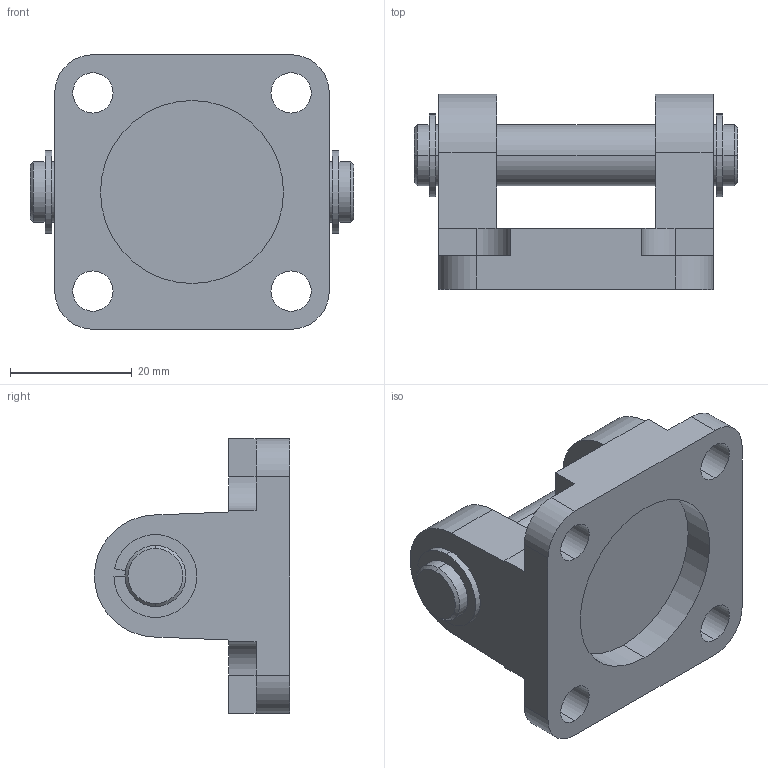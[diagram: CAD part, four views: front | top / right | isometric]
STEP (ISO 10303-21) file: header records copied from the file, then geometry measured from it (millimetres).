
FILE_DESCRIPTION (( 'STEP AP214' ), '1' );
FILE_NAME ('SFSICR-032.STEP', '2013-09-11T11:29:59', ( '' ), ( '' ), 'SwSTEP 2.0', 'SolidWorks 2009', '' );
FILE_SCHEMA (( 'AUTOMOTIVE_DESIGN' ));
Length unit declared in the file: millimetre
Products named in the file (3): SFSICR-032; SFSI-Gestell_SFSICR-032; Bolzen_Bolzen-032
Assembly tree (2 placements, depth 2):
  SFSICR-032
    SFSI-Gestell_SFSICR-032
    Bolzen_Bolzen-032
Bounding box: 53 x 32 x 45 mm (x, y, z)
Volume: 23875.9 mm3; surface area: 10981.1 mm2
Topology: 2 solids, 2 shells, 81 faces, 216 edges, 140 vertices
Faces by surface type: plane 39, cylinder 38, cone 4
Entity records: 2830 total; most frequent: DIRECTION 476, CARTESIAN_POINT 442, ORIENTED_EDGE 432, EDGE_CURVE 216, AXIS2_PLACEMENT_3D 174, VERTEX_POINT 140, LINE 128, VECTOR 128
